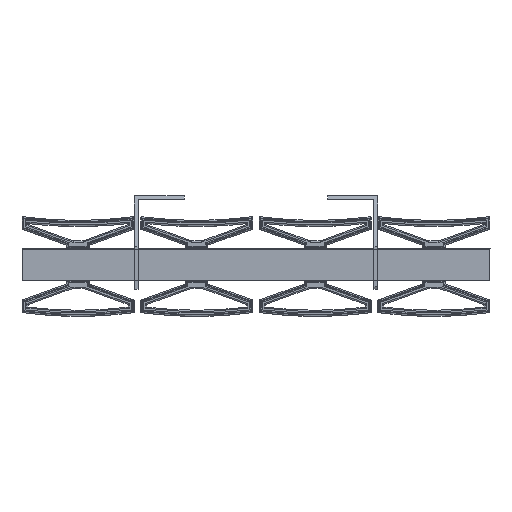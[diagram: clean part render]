
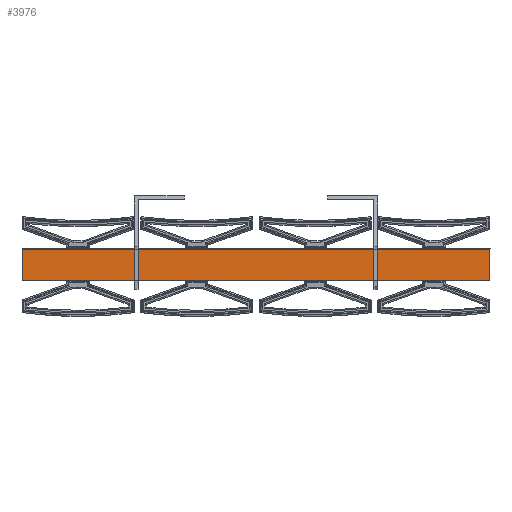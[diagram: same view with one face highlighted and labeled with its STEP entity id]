
A CAD part, front view. The second image highlights one B-rep face of the part: STEP entity #3976.
In plain terms, the highlighted planar face has unit normal (0, -1, 0) as drawn and (-1, 0, 0) by its records, which use the part's own axes.
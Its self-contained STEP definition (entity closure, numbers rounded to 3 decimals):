
#103 = AXIS2_PLACEMENT_3D ( 'NONE', #19776, #19775, #19774 ) ;
#1136 = CARTESIAN_POINT ( 'NONE',  ( -14.25, 375., 0. ) ) ;
#1137 = DIRECTION ( 'NONE',  ( 0., 0., 1. ) ) ;
#1318 = CARTESIAN_POINT ( 'NONE',  ( -14.25, 0., 12.45 ) ) ;
#1421 = CARTESIAN_POINT ( 'NONE',  ( -14.25, 0., -12.45 ) ) ;
#3620 = CARTESIAN_POINT ( 'NONE',  ( -14.25, 375., -12.45 ) ) ;
#3643 = CARTESIAN_POINT ( 'NONE',  ( -14.25, 375., 12.45 ) ) ;
#3976 = ADVANCED_FACE ( 'NONE', ( #12132 ), #19777, .F. ) ;
#4771 = EDGE_LOOP ( 'NONE', ( #20185, #20184, #20181, #20183 ) ) ;
#6460 = VERTEX_POINT ( 'NONE', #3643 ) ;
#6471 = VERTEX_POINT ( 'NONE', #3620 ) ;
#9854 = LINE ( 'NONE', #22329, #9855 ) ;
#9855 = VECTOR ( 'NONE', #22330, 1000. ) ;
#9998 = LINE ( 'NONE', #22740, #9999 ) ;
#9999 = VECTOR ( 'NONE', #22742, 1000. ) ;
#10018 = LINE ( 'NONE', #22795, #10019 ) ;
#10019 = VECTOR ( 'NONE', #22796, 1000. ) ;
#10212 = LINE ( 'NONE', #1136, #10213 ) ;
#10213 = VECTOR ( 'NONE', #1137, 1000. ) ;
#12132 = FACE_OUTER_BOUND ( 'NONE', #4771, .T. ) ;
#19774 = DIRECTION ( 'NONE',  ( 0., 0., -1. ) ) ;
#19775 = DIRECTION ( 'NONE',  ( 1., 0., 0. ) ) ;
#19776 = CARTESIAN_POINT ( 'NONE',  ( -14.25, 375., 0. ) ) ;
#19777 = PLANE ( 'NONE',  #103 ) ;
#20181 = ORIENTED_EDGE ( 'NONE', *, *, #27448, .F. ) ;
#20183 = ORIENTED_EDGE ( 'NONE', *, *, #26976, .T. ) ;
#20184 = ORIENTED_EDGE ( 'NONE', *, *, #26616, .F. ) ;
#20185 = ORIENTED_EDGE ( 'NONE', *, *, #27011, .T. ) ;
#22329 = CARTESIAN_POINT ( 'NONE',  ( -14.25, 375., 12.45 ) ) ;
#22330 = DIRECTION ( 'NONE',  ( 0., -1., 0. ) ) ;
#22740 = CARTESIAN_POINT ( 'NONE',  ( -14.25, 375., -12.45 ) ) ;
#22742 = DIRECTION ( 'NONE',  ( 0., -1., 0. ) ) ;
#22795 = CARTESIAN_POINT ( 'NONE',  ( -14.25, 0., 0. ) ) ;
#22796 = DIRECTION ( 'NONE',  ( 0., 0., 1. ) ) ;
#26616 = EDGE_CURVE ( 'NONE', #6460, #27667, #9854, .T. ) ;
#26976 = EDGE_CURVE ( 'NONE', #6471, #27774, #9998, .T. ) ;
#27011 = EDGE_CURVE ( 'NONE', #27774, #27667, #10018, .T. ) ;
#27448 = EDGE_CURVE ( 'NONE', #6471, #6460, #10212, .T. ) ;
#27667 = VERTEX_POINT ( 'NONE', #1318 ) ;
#27774 = VERTEX_POINT ( 'NONE', #1421 ) ;
